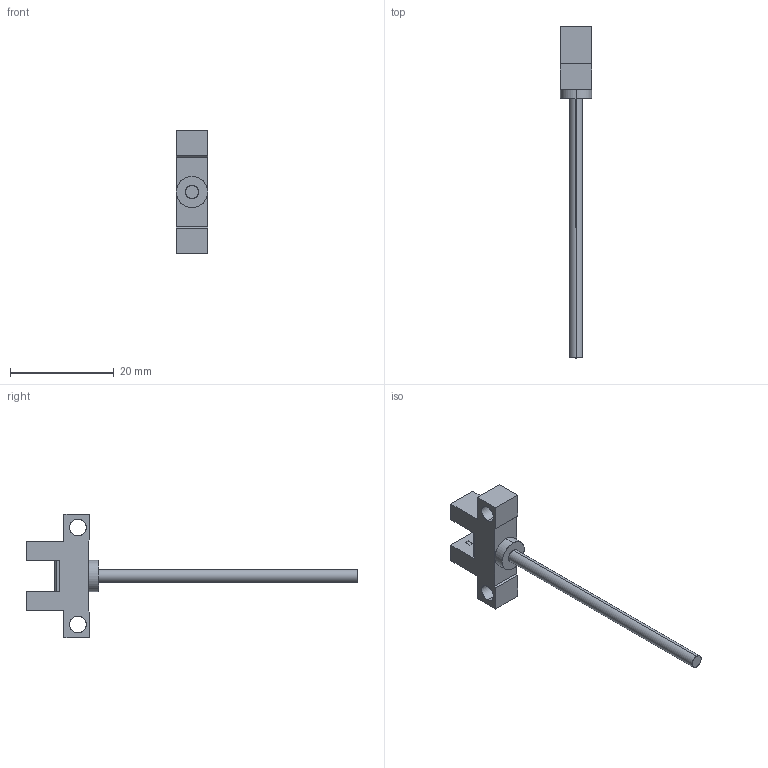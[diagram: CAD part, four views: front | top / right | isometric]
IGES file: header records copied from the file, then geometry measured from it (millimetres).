
Start section: SolidWorks IGES file using analytic representation for surfaces
Global section: file name: C:\catalog\pm-k25.IGS; native system: SolidWorks 2010; preprocessor: SolidWorks 2010; author: C0278; date: 150723.133734; units: millimetre
Bounding box: 6 x 64 x 23.9 mm (x, y, z)
Surface area: 1382.5 mm2 (no closed solid volume)
Topology: 0 solids, 0 shells, 61 faces, 558 edges, 558 vertices
Faces by surface type: bspline 53, revolution 8
